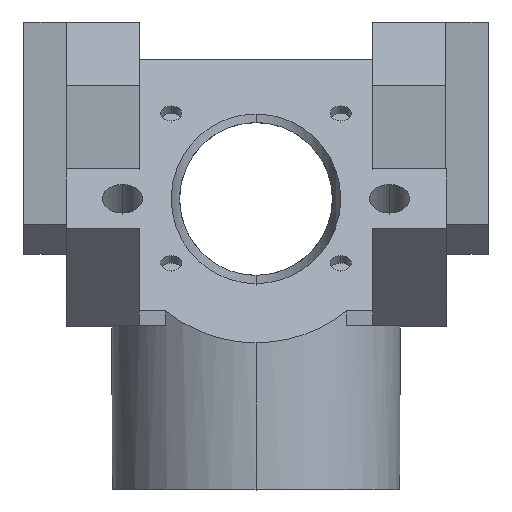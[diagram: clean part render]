
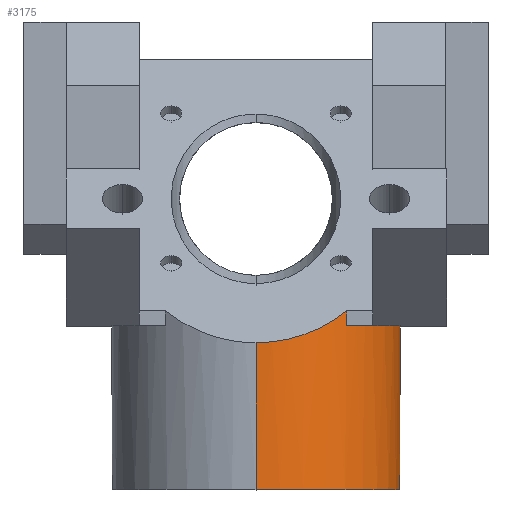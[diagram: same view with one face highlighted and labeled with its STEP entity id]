
A CAD part, top view. The second image highlights one B-rep face of the part: STEP entity #3175.
In plain terms, the highlighted cylindrical face has radius 3.4 mm (diameter 6.8 mm), a partial arc.
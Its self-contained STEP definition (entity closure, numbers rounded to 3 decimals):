
#11 = EDGE_CURVE ( 'NONE', #1692, #2367, #1765, .T. ) ;
#37 = VERTEX_POINT ( 'NONE', #2234 ) ;
#164 = CARTESIAN_POINT ( 'NONE',  ( 0., 0., 13.9 ) ) ;
#178 = CARTESIAN_POINT ( 'NONE',  ( 0., -3., 10.5 ) ) ;
#263 = DIRECTION ( 'NONE',  ( 0., 1., 0. ) ) ;
#274 = CARTESIAN_POINT ( 'NONE',  ( 0.5, -6.86, 7.137 ) ) ;
#311 = AXIS2_PLACEMENT_3D ( 'NONE', #686, #1901, #1707 ) ;
#325 = CARTESIAN_POINT ( 'NONE',  ( 2.135, -3., 13.146 ) ) ;
#337 = FACE_OUTER_BOUND ( 'NONE', #1871, .T. ) ;
#353 = ORIENTED_EDGE ( 'NONE', *, *, #11, .F. ) ;
#507 = CIRCLE ( 'NONE', #2321, 3.4 ) ;
#603 = CARTESIAN_POINT ( 'NONE',  ( 0., 0., 10.5 ) ) ;
#686 = CARTESIAN_POINT ( 'NONE',  ( 0., -3., 10.5 ) ) ;
#716 = CIRCLE ( 'NONE', #311, 3.4 ) ;
#753 = LINE ( 'NONE', #2791, #1384 ) ;
#884 = CARTESIAN_POINT ( 'NONE',  ( 2.135, -2.646, 13.146 ) ) ;
#970 = CARTESIAN_POINT ( 'NONE',  ( 0.5, -3., 7.137 ) ) ;
#981 = ORIENTED_EDGE ( 'NONE', *, *, #1585, .F. ) ;
#992 = VERTEX_POINT ( 'NONE', #2892 ) ;
#1050 = EDGE_CURVE ( 'NONE', #2853, #1692, #716, .T. ) ;
#1127 = VECTOR ( 'NONE', #1215, 1000. ) ;
#1191 = VERTEX_POINT ( 'NONE', #1238 ) ;
#1215 = DIRECTION ( 'NONE',  ( 0., -1., 0. ) ) ;
#1238 = CARTESIAN_POINT ( 'NONE',  ( 2.75, -3., 12.499 ) ) ;
#1247 = ORIENTED_EDGE ( 'NONE', *, *, #2672, .F. ) ;
#1250 = CIRCLE ( 'NONE', #1891, 3.4 ) ;
#1260 = VECTOR ( 'NONE', #1929, 1000. ) ;
#1354 = CYLINDRICAL_SURFACE ( 'NONE', #1812, 3.4 ) ;
#1384 = VECTOR ( 'NONE', #2288, 1000. ) ;
#1405 = DIRECTION ( 'NONE',  ( 0., 0., 1. ) ) ;
#1411 = LINE ( 'NONE', #164, #1260 ) ;
#1463 = DIRECTION ( 'NONE',  ( 0., 0., 1. ) ) ;
#1585 = EDGE_CURVE ( 'NONE', #1191, #2853, #2728, .T. ) ;
#1597 =( BOUNDED_CURVE ( )  B_SPLINE_CURVE ( 3, ( #1952, #2680, #2478, #884 ),
 .UNSPECIFIED., .F., .T. ) 
 B_SPLINE_CURVE_WITH_KNOTS ( ( 4, 4 ),
 ( 3.142, 3.82 ),
 .UNSPECIFIED. ) 
 CURVE ( )  GEOMETRIC_REPRESENTATION_ITEM ( )  RATIONAL_B_SPLINE_CURVE ( ( 1., 0.962, 0.962, 1. ) ) 
 REPRESENTATION_ITEM ( '' )  );
#1672 = EDGE_CURVE ( 'NONE', #3171, #37, #753, .T. ) ;
#1692 = VERTEX_POINT ( 'NONE', #970 ) ;
#1707 = DIRECTION ( 'NONE',  ( 0., 0., 1. ) ) ;
#1737 = DIRECTION ( 'NONE',  ( -1., 0., 0. ) ) ;
#1750 = CARTESIAN_POINT ( 'NONE',  ( 0.5, 0., 7.137 ) ) ;
#1752 = ORIENTED_EDGE ( 'NONE', *, *, #2203, .T. ) ;
#1765 = LINE ( 'NONE', #1750, #1127 ) ;
#1812 = AXIS2_PLACEMENT_3D ( 'NONE', #603, #2377, #2682 ) ;
#1816 = EDGE_CURVE ( 'NONE', #992, #2380, #1411, .T. ) ;
#1871 = EDGE_LOOP ( 'NONE', ( #3224, #1752, #353, #2700, #981, #2941, #2884, #1247 ) ) ;
#1891 = AXIS2_PLACEMENT_3D ( 'NONE', #178, #1924, #1405 ) ;
#1901 = DIRECTION ( 'NONE',  ( 0., 1., 0. ) ) ;
#1924 = DIRECTION ( 'NONE',  ( 0., 1., 0. ) ) ;
#1929 = DIRECTION ( 'NONE',  ( 0., 1., 0. ) ) ;
#1952 = CARTESIAN_POINT ( 'NONE',  ( 0., -3.4, 13.9 ) ) ;
#2203 = EDGE_CURVE ( 'NONE', #992, #2367, #507, .T. ) ;
#2233 = CARTESIAN_POINT ( 'NONE',  ( 3.008, -3., 8.914 ) ) ;
#2234 = CARTESIAN_POINT ( 'NONE',  ( 2.135, -2.646, 13.146 ) ) ;
#2249 = AXIS2_PLACEMENT_3D ( 'NONE', #3281, #263, #1737 ) ;
#2281 = EDGE_CURVE ( 'NONE', #3171, #1191, #1250, .T. ) ;
#2288 = DIRECTION ( 'NONE',  ( 0., 1., 0. ) ) ;
#2321 = AXIS2_PLACEMENT_3D ( 'NONE', #3191, #2737, #1463 ) ;
#2367 = VERTEX_POINT ( 'NONE', #274 ) ;
#2377 = DIRECTION ( 'NONE',  ( 0., 1., 0. ) ) ;
#2380 = VERTEX_POINT ( 'NONE', #2768 ) ;
#2478 = CARTESIAN_POINT ( 'NONE',  ( 1.524, -3.139, 13.639 ) ) ;
#2672 = EDGE_CURVE ( 'NONE', #2380, #37, #1597, .T. ) ;
#2680 = CARTESIAN_POINT ( 'NONE',  ( 0.784, -3.4, 13.9 ) ) ;
#2682 = DIRECTION ( 'NONE',  ( 0., 0., 1. ) ) ;
#2700 = ORIENTED_EDGE ( 'NONE', *, *, #1050, .F. ) ;
#2728 = CIRCLE ( 'NONE', #2249, 3.4 ) ;
#2737 = DIRECTION ( 'NONE',  ( 0., 1., 0. ) ) ;
#2768 = CARTESIAN_POINT ( 'NONE',  ( 0., -3.4, 13.9 ) ) ;
#2791 = CARTESIAN_POINT ( 'NONE',  ( 2.135, -3., 13.146 ) ) ;
#2853 = VERTEX_POINT ( 'NONE', #2233 ) ;
#2884 = ORIENTED_EDGE ( 'NONE', *, *, #1672, .T. ) ;
#2892 = CARTESIAN_POINT ( 'NONE',  ( 0., -6.86, 13.9 ) ) ;
#2941 = ORIENTED_EDGE ( 'NONE', *, *, #2281, .F. ) ;
#3171 = VERTEX_POINT ( 'NONE', #325 ) ;
#3175 = ADVANCED_FACE ( 'NONE', ( #337 ), #1354, .T. ) ;
#3191 = CARTESIAN_POINT ( 'NONE',  ( 0., -6.86, 10.5 ) ) ;
#3224 = ORIENTED_EDGE ( 'NONE', *, *, #1816, .F. ) ;
#3281 = CARTESIAN_POINT ( 'NONE',  ( 0., -3., 10.5 ) ) ;
